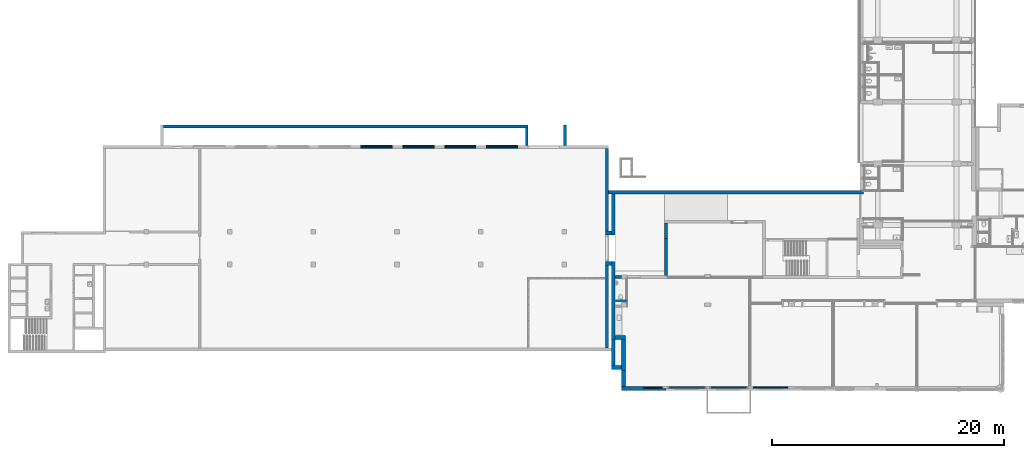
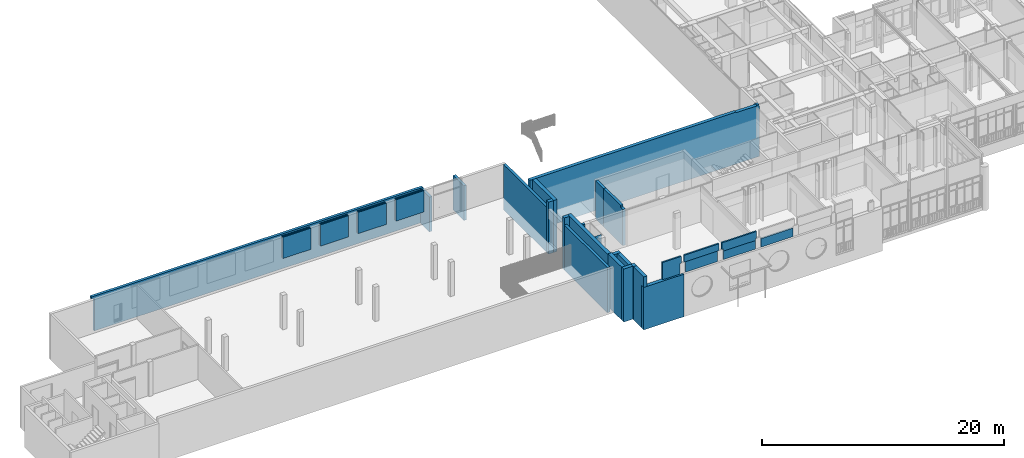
# One storey, part 81 of 135: 34 walls.
"""IFC2X3 building model written with IfcOpenShell, lengths in millimetres."""

from ifc_helpers import new_model, entity, si_unit, converted_unit, derived_unit, money_unit, direction, frame, origin_with_axes, place, context, subcontext, project, spatial, faceted_brep, material, type_object, element, save


model = new_model("IFC2X3")

# Units and contexts
model_context = context("Model", 3, precision=0.01, world=origin_with_axes(), true_north=direction((0.0, 1.0)))
body_context = subcontext(model_context, "Body", "Model", "MODEL_VIEW")
ifc_project = project(units=[si_unit("LENGTHUNIT", "METRE", prefix="MILLI"), si_unit("AREAUNIT", "SQUARE_METRE"), si_unit("VOLUMEUNIT", "CUBIC_METRE"), converted_unit("PLANEANGLEUNIT", "DEGREE", entity("IfcPlaneAngleMeasure", 0.0174532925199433), si_unit("PLANEANGLEUNIT", "RADIAN"), dimensions=[0, 0, 0, 0, 0, 0, 0]), money_unit("EUR"), converted_unit("TIMEUNIT", "Year", entity("IfcTimeMeasure", 31557600.0), si_unit("TIMEUNIT", "SECOND"), dimensions=[0, 0, 1, 0, 0, 0, 0]), si_unit("MASSUNIT", "GRAM", prefix="KILO"), si_unit("THERMODYNAMICTEMPERATUREUNIT", "DEGREE_CELSIUS"), si_unit("LUMINOUSINTENSITYUNIT", "LUMEN"), si_unit("ENERGYUNIT", "JOULE", prefix="MEGA"), derived_unit("THERMALCONDUCTANCEUNIT", [(si_unit("POWERUNIT", "WATT"), 1), (si_unit("LENGTHUNIT", "METRE"), -1), (si_unit("THERMODYNAMICTEMPERATUREUNIT", "KELVIN"), -1)]), derived_unit("SPECIFICHEATCAPACITYUNIT", [(si_unit("ENERGYUNIT", "JOULE"), 1), (si_unit("MASSUNIT", "GRAM", prefix="KILO"), -1), (si_unit("THERMODYNAMICTEMPERATUREUNIT", "KELVIN"), -1)]), derived_unit("MASSDENSITYUNIT", [(si_unit("MASSUNIT", "GRAM", prefix="KILO"), 1), (si_unit("VOLUMEUNIT", "CUBIC_METRE"), -1)])], contexts=[model_context])

# Site, building, storey
site_placement = place(None, origin_with_axes())
site = spatial("IfcSite", under=ifc_project, at=site_placement, Name="Site", CompositionType="ELEMENT")
building_placement = place(site_placement, origin_with_axes())
building = spatial("IfcBuilding", under=site, at=building_placement, Name="Naam gebouw", CompositionType="ELEMENT")
storey_placement = place(building_placement, origin_with_axes())
storey = spatial("IfcBuildingStorey", under=building, at=storey_placement, Name="Begane grond N", CompositionType="ELEMENT", Elevation=0.0)

# Walls
ifc_material_1 = material(Name="ALG - CONSTRUCTIEF")
wall_type_1 = type_object("IfcWallType", Name="ALG - CONSTRUCTIEF 330", PredefinedType="NOTDEFINED")
wall_1_placement = place(storey_placement, frame((100.0000479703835, 3445.668707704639, -1200.0), z_axis=(0.0, 0.0, 1.0), x_axis=(1.0, 0.0, 0.0)))
element("IfcWall", 1, at=wall_1_placement, inside=storey, type_object=wall_type_1, material=ifc_material_1, Name="_Wand-x", context=body_context, shape_type="Brep", body=[
    faceted_brep([(-329.9999999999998, 0.0, 4290.0), (3229.999952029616, 0.0, 4290.0), (3229.999952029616, 0.0, 1200.0), (3499.999952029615, 0.0, 1200.0), (3499.999952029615, 0.0, 0.0), (-329.9999999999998, 0.0, 0.0), (3499.999952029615, -150.0000000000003, 4290.0), (3229.999952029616, -150.0000000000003, 4290.0), (-329.9999999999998, -329.9999999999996, 4290.0), (3499.999952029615, -329.9999999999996, 4290.0), (3229.999952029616, -150.0000000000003, 1200.0), (3499.999952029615, -150.0000000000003, 1200.0), (3499.999952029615, -329.9999999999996, 0.0), (-329.9999999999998, -330.0000000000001, 0.0)], [[[0, 1, 2, 3, 4, 5]], [[6, 7, 1, 0, 8, 9]], [[10, 2, 1, 7]], [[10, 11, 3, 2]], [[3, 11, 6, 9, 12, 4]], [[13, 5, 4, 12]], [[8, 0, 5, 13]], [[10, 7, 6, 11]], [[8, 13, 12, 9]]]),
])
wall_2_placement = place(storey_placement, frame((-770.0388143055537, 20015.80194477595, -1200.0), z_axis=(0.0, 0.0, 1.0), x_axis=(0.0, -1.0, 0.0)))
element("IfcWall", 2, at=wall_2_placement, inside=storey, type_object=wall_type_1, material=ifc_material_1, Name="_Wand-x", context=body_context, shape_type="Brep", body=[
    faceted_brep([(0.001733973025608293, -329.9999999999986, 5250.000000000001), (-0.0002576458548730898, -0.0372909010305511, 5250.000000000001), (-0.0002576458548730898, -0.0372909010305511, 5050.000000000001), (-0.0002578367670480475, -1.321942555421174e-09, 5050.000000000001), (0.0, 0.0, 0.0), (0.001733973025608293, -329.9999999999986, 0.0), (3500.226920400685, -329.9999999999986, 5250.000000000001), (3500.226920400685, -0.0372909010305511, 5250.000000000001), (3500.226920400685, -0.0372909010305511, 5050.000000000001), (3500.226920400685, 0.0, 5050.000000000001), (3500.226920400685, 0.0, 0.0), (3500.226920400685, -330.0000000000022, 0.0)], [[[0, 1, 2, 3, 4, 5]], [[6, 7, 1, 0]], [[8, 2, 1, 7]], [[8, 9, 3, 2]], [[4, 3, 9, 10]], [[4, 10, 11, 5]], [[5, 11, 6, 0]], [[9, 8, 7, 6, 11, 10]]]),
])
wall_3_placement = place(storey_placement, frame((100.0000479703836, 5261.796119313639, -1200.0), z_axis=(0.0, 0.0, 1.0), x_axis=(-1.0, 0.0, 0.0)))
element("IfcWall", 3, at=wall_3_placement, inside=storey, type_object=wall_type_1, material=ifc_material_1, Name="_Wand-x", context=body_context, shape_type="Brep", body=[
    faceted_brep([(330.0000000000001, 0.0, 5350.000000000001), (1200.038862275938, 0.0, 5350.000000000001), (1200.038862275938, 330.0000000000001, 5350.000000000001), (330.0, 330.0000000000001, 5350.000000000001), (330.0000000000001, 0.0, 0.0), (1200.038862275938, 0.0, 0.0), (1200.038862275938, 330.0000000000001, 0.0), (330.0, 330.0000000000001, 0.0)], [[[0, 1, 2, 3]], [[4, 5, 1, 0]], [[6, 2, 1, 5]], [[3, 2, 6, 7]], [[7, 4, 0, 3]], [[7, 6, 5, 4]]]),
])
wall_4_placement = place(storey_placement, frame((100.0000479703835, 3445.668707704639, -1200.0), z_axis=(0.0, 0.0, 1.0), x_axis=(0.0, 1.0, 0.0)))
element("IfcWall", 4, at=wall_4_placement, inside=storey, type_object=wall_type_1, material=ifc_material_1, Name="_Wand-x", context=body_context, shape_type="Brep", body=[
    faceted_brep([(0.0, 0.0, 0.0), (1386.127411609, 0.0, 0.0), (1386.127411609, 0.0, 5350.000000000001), (-330.0000000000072, 0.0, 5350.000000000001), (-329.9999999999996, 0.0, 4290.0), (0.0, 0.0, 4290.0), (0.0, 330.0000000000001, 0.0), (1386.127411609, 329.9999999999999, 0.0), (1386.127411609, 330.0000000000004, 5350.000000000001), (-330.0000000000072, 330.0000000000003, 5350.000000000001), (-329.9999999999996, 330.0000000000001, 4290.0), (0.0, 330.0000000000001, 4290.0)], [[[0, 1, 2, 3, 4, 5]], [[6, 7, 1, 0]], [[7, 8, 2, 1]], [[3, 2, 8, 9]], [[9, 10, 4, 3]], [[11, 5, 4, 10]], [[6, 0, 5, 11]], [[9, 8, 7, 6, 11, 10]]]),
])
wall_5_placement = place(storey_placement, frame((-770.0388143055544, 7505.779842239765, -1200.0), z_axis=(0.0, 0.0, 1.0), x_axis=(0.0, -1.0, 0.0)))
element("IfcWall", 5, at=wall_5_placement, inside=storey, type_object=wall_type_1, material=ifc_material_1, Name="_Wand-x", context=body_context, shape_type="Brep", body=[
    faceted_brep([(0.0, -330.0000000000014, 5350.000000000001), (0.0, -0.03729090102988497, 5350.000000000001), (0.0, -0.03729090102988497, 5050.000000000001), (0.0, 0.0, 5050.000000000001), (0.0, 0.0, 0.0), (0.0, -330.0000000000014, 0.0), (2243.983722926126, -330.0000000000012, 5350.000000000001), (2243.983722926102, -0.03729090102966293, 5350.000000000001), (2243.983722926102, -0.03729090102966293, 5050.000000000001), (2243.983722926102, 0.0, 5050.000000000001), (2243.983722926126, 0.0, 0.0), (2243.983722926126, -330.0000000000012, 0.0)], [[[0, 1, 2, 3, 4, 5]], [[6, 7, 1, 0]], [[8, 2, 1, 7]], [[8, 9, 3, 2]], [[4, 3, 9, 10]], [[4, 10, 11, 5]], [[5, 11, 6, 0]], [[9, 8, 7, 6, 11, 10]]]),
])
wall_6_placement = place(storey_placement, frame((-770.0388143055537, 16515.57502437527, -1200.0), z_axis=(0.0, 0.0, 1.0), x_axis=(-1.0, 0.0, 0.0)))
element("IfcWall", 6, at=wall_6_placement, inside=storey, type_object=wall_type_1, material=ifc_material_1, Name="_Wand-x", context=body_context, shape_type="Brep", body=[
    faceted_brep([(829.9611856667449, -0.01670625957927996, 5250.000000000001), (579.9611856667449, -0.01670625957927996, 5250.000000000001), (579.9611856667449, 0.0, 5250.000000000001), (329.9999999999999, 0.0, 5250.000000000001), (329.9999999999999, -329.9999999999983, 5250.000000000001), (829.9611856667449, -329.9999999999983, 5250.000000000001), (579.9611856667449, -0.01670625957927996, 4560.000000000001), (829.9611856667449, -0.01670625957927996, 4560.000000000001), (579.9611856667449, 0.0, 4560.000000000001), (829.9611856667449, 0.0, 4560.000000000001), (829.9611845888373, 0.0, 0.0), (329.9999999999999, 0.0, 0.0), (329.9999999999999, -329.9999999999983, 0.0), (829.9611845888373, -330.0000000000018, 0.0)], [[[0, 1, 2, 3, 4, 5]], [[6, 1, 0, 7]], [[8, 2, 1, 6]], [[2, 8, 9, 10, 11, 3]], [[3, 11, 12, 4]], [[12, 13, 5, 4]], [[9, 7, 0, 5, 13, 10]], [[7, 9, 8, 6]], [[12, 11, 10, 13]]]),
])
wall_7_placement = place(storey_placement, frame((-770.0388143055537, 14215.57502436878, -1200.0), z_axis=(0.0, 0.0, 1.0), x_axis=(-1.0, 0.0, 0.0)))
element("IfcWall", 7, at=wall_7_placement, inside=storey, type_object=wall_type_1, material=ifc_material_1, Name="_Wand-x", context=body_context, shape_type="Brep", body=[
    faceted_brep([(330.0000000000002, 0.0, 0.0), (829.9611845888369, 0.0, 0.0), (829.9611856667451, 0.0, 5250.000000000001), (330.0000000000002, 0.0, 5250.000000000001), (330.0000000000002, 330.0000000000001, 0.0), (829.9611845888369, 330.0000000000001, 0.0), (829.9611856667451, 330.0000000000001, 5250.000000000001), (330.0000000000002, 330.0000000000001, 5250.000000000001)], [[[0, 1, 2, 3]], [[0, 4, 5, 1]], [[1, 5, 6, 2]], [[7, 3, 2, 6]], [[7, 4, 0, 3]], [[4, 7, 6, 5]]]),
])
wall_8_placement = place(storey_placement, frame((100.0000479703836, 5261.796119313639, -1200.0), z_axis=(0.0, 0.0, 1.0), x_axis=(0.0, 1.0, 0.0)))
element("IfcWall", 8, at=wall_8_placement, inside=storey, type_object=wall_type_1, material=ifc_material_1, Name="_Wand-x", context=body_context, shape_type="Brep", body=[
    faceted_brep([(2243.983722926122, 329.9999999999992, 1200.0), (2243.983722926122, 329.9999999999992, 5050.000000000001), (2243.983722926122, 0.0, 5050.000000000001), (2243.983722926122, 0.0, 1200.0), (0.0, 329.999999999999, 5350.000000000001), (0.0, 329.999999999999, 5050.000000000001), (0.0, 329.999999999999, 1200.0), (0.0, 329.999999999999, 1000.0), (2243.983722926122, 329.9999999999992, 999.9999999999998), (2243.983722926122, 329.9999999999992, 0.0), (-430.0000000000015, 329.999999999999, 0.0), (-430.0000000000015, 329.999999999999, 5350.000000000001), (0.0, 0.0, 5050.000000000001), (0.0, 0.0, 5350.000000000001), (-430.0000000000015, 0.0, 5350.000000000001), (-430.0000000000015, 0.0, 0.0), (2243.983722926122, 0.0, 0.0), (2243.983722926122, 0.0, 1000.0), (0.0, 0.0, 1000.0), (0.0, 0.0, 1200.0)], [[[0, 1, 2, 3]], [[4, 5, 1, 0, 6, 7, 8, 9, 10, 11]], [[5, 12, 2, 1]], [[2, 12, 13, 14, 15, 16, 17, 18, 19, 3]], [[6, 0, 3, 19]], [[5, 4, 13, 12]], [[6, 19, 18, 7]], [[7, 18, 17, 8]], [[9, 8, 17, 16]], [[15, 10, 9, 16]], [[14, 11, 10, 15]], [[14, 13, 4, 11]]]),
])
wall_9_placement = place(storey_placement, frame((100.0000479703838, 7835.779842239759, -1200.0), z_axis=(0.0, 0.0, 1.0), x_axis=(-1.0, 0.0, 0.0)))
element("IfcWall", 9, at=wall_9_placement, inside=storey, type_object=wall_type_1, material=ifc_material_1, Name="_Wand-x", context=body_context, shape_type="Brep", body=[
    faceted_brep([(870.0388622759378, 0.0, 0.0), (870.0388622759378, 0.0, 1000.0), (0.0, 0.0, 999.9999999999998), (0.0, 0.0, 0.0), (870.0388622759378, 329.9999999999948, 0.0), (870.0388622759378, 329.9999999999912, 1000.0), (0.0, 329.9999999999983, 1000.0), (0.0, 329.9999999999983, 0.0)], [[[0, 1, 2, 3]], [[4, 5, 1, 0]], [[5, 6, 2, 1]], [[3, 2, 6, 7]], [[3, 7, 4, 0]], [[7, 6, 5, 4]]]),
    faceted_brep([(870.0388622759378, 0.0, 1200.0), (870.0388622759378, 0.0, 5050.000000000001), (0.0, 0.0, 5050.000000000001), (0.0, 0.0, 1200.0), (870.0388622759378, 329.9999999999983, 1200.0), (870.0388622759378, 329.9999999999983, 5050.000000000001), (0.0, 329.9999999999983, 5050.000000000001), (0.0, 329.9999999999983, 1200.0)], [[[0, 1, 2, 3]], [[4, 5, 1, 0]], [[5, 6, 2, 1]], [[3, 2, 6, 7]], [[4, 0, 3, 7]], [[7, 6, 5, 4]]]),
])
wall_10_placement = place(storey_placement, frame((-770.038814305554, 14215.57502437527, -1200.0), z_axis=(0.0, 0.0, 1.0), x_axis=(0.0, -1.0, 0.0)))
element("IfcWall", 10, at=wall_10_placement, inside=storey, type_object=wall_type_1, material=ifc_material_1, Name="_Wand-x", context=body_context, shape_type="Brep", body=[
    faceted_brep([(6.490807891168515e-09, -329.9999999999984, 5250.000000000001), (6.490807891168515e-09, -0.03729090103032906, 5250.000000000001), (6.490807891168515e-09, -0.03729090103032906, 5050.000000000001), (6.490807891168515e-09, 0.0, 5050.000000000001), (6.490807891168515e-09, 0.0, 0.0), (6.490807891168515e-09, -329.9999999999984, 0.0), (6709.795182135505, -330.0000000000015, 5250.000000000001), (6709.795182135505, -0.03729090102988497, 5250.000000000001), (6709.795182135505, -0.03729090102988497, 5050.000000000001), (6709.795182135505, 0.0, 5050.000000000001), (6709.795182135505, 0.0, 0.0), (6709.795182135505, -330.0000000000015, 0.0)], [[[0, 1, 2, 3, 4, 5]], [[6, 7, 1, 0]], [[8, 2, 1, 7]], [[8, 9, 3, 2]], [[4, 3, 9, 10]], [[5, 4, 10, 11]], [[0, 5, 11, 6]], [[9, 8, 7, 6, 11, 10]]]),
])
wall_type_2 = type_object("IfcWallType", Name="ALG - CONSTRUCTIEF 250", PredefinedType="NOTDEFINED")
wall_11_placement = place(storey_placement, frame((3731.100532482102, 17515.84806644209, 0.0), z_axis=(0.0, 0.0, 1.0), x_axis=(-9.281575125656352e-10, -1.0, 0.0)))
element("IfcWall", 11, at=wall_11_placement, inside=storey, type_object=wall_type_2, material=ifc_material_1, Name="_Wand-x", context=body_context, shape_type="Brep", body=[
    faceted_brep([(2.320419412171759e-07, -250.0, 3850.0), (1319.927806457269, -249.9999987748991, 3850.0), (1319.927806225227, 1.22510090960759e-06, 3850.0), (0.0, 0.0, 3850.0), (2.320419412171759e-07, -250.0, 0.0), (1319.927806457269, -249.9999987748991, 0.0), (1319.927806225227, 1.22510090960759e-06, 0.0), (0.0, 0.0, 0.0)], [[[0, 1, 2, 3]], [[4, 5, 1, 0]], [[2, 1, 5, 6]], [[3, 2, 6, 7]], [[4, 0, 3, 7]], [[7, 6, 5, 4]]]),
])
wall_12_placement = place(storey_placement, frame((-1599.99999889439, 23965.57502437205, -1200.0), z_axis=(0.0, 0.0, 1.0), x_axis=(0.0, -1.0, 0.0)))
element("IfcWall", 12, at=wall_12_placement, inside=storey, type_object=wall_type_2, material=ifc_material_1, Name="_Wand-x", context=body_context, shape_type="Brep", body=[
    faceted_brep([(7119.999999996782, 0.0, 4560.000000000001), (7119.999999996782, 249.9999999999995, 4560.000000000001), (0.0, 250.0000000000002, 4560.000000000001), (0.0, 0.0, 4560.000000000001), (7119.999999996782, 0.0, 0.0), (7119.999999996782, 249.9999999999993, 0.0), (0.0, 250.0, 0.0), (0.0, 0.0, 0.0)], [[[0, 1, 2, 3]], [[1, 0, 4, 5]], [[1, 5, 6, 2]], [[7, 3, 2, 6]], [[4, 0, 3, 7]], [[5, 4, 7, 6]]]),
])
wall_13_placement = place(storey_placement, frame((-39904.07362386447, 25966.32932273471, -1200.0), z_axis=(0.0, 0.0, 1.0), x_axis=(1.0, 0.0, 0.0)))
element("IfcWall", 13, at=wall_13_placement, inside=storey, type_object=wall_type_2, material=ifc_material_1, Name="_Wand-x", context=body_context, shape_type="Brep", body=[
    faceted_brep([(250.0392305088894, -250.0, 3300.0), (250.0392305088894, -250.0, 0.0), (31639.79397950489, -249.9999999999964, 0.0), (31639.79397950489, -249.9999999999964, 3510.0), (0.0, -250.0, 3510.0), (0.0, -250.0, 3300.0), (250.000003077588, 0.0, 0.0), (250.000003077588, 0.0, 3300.0), (31639.79397950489, 0.0, 0.0), (31639.79397950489, 0.0, 3510.0), (0.0, 0.0, 3510.0), (0.0, 0.0, 3300.0)], [[[0, 1, 2, 3, 4, 5]], [[6, 1, 0, 7]], [[2, 1, 6, 8]], [[2, 8, 9, 3]], [[3, 9, 10, 4]], [[11, 5, 4, 10]], [[5, 11, 7, 0]], [[6, 7, 11, 10, 9, 8]]]),
])
wall_14_placement = place(storey_placement, frame((-4984.073623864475, 25966.32932273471, -1200.0), z_axis=(0.0, 0.0, 1.0), x_axis=(-0.0001029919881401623, -0.9999999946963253, 0.0)))
element("IfcWall", 14, at=wall_14_placement, inside=storey, type_object=wall_type_2, material=ifc_material_1, Name="_Wand-x", context=body_context, shape_type="Brep", body=[
    faceted_brep([(1750.754307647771, 0.0, 0.0), (1750.780055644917, -250.0000000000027, 0.0), (0.0, -250.0, 0.0), (0.0, 0.0, 0.0), (1750.754307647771, 0.0, 3510.0), (1750.780055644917, -250.0000000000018, 3510.0), (0.0, -250.0, 3510.0), (0.0, 0.0, 3510.0)], [[[0, 1, 2, 3]], [[1, 0, 4, 5]], [[1, 5, 6, 2]], [[7, 3, 2, 6]], [[4, 0, 3, 7]], [[5, 4, 7, 6]]]),
])
wall_15_placement = place(storey_placement, frame((3731.100531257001, 16195.92025998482, 0.0), z_axis=(0.0, 0.0, 1.0), x_axis=(-9.281576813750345e-10, -1.0, 0.0)))
element("IfcWall", 15, at=wall_15_placement, inside=storey, type_object=wall_type_2, material=ifc_material_1, Name="_Wand-x", context=body_context, shape_type="Brep", body=[
    faceted_brep([(2.320383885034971e-07, -250.0, 3850.0), (2800.007835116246, -249.9999974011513, 3850.000000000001), (2800.007834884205, 2.598848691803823e-06, 3850.000000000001), (0.0, 0.0, 3850.0), (3175.007831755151, -249.999997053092, 3650.000000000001), (2800.007835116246, -249.9999974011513, 3650.000000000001), (2.320383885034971e-07, -250.0, 0.0), (3175.007831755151, -249.999997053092, 0.0), (2800.007834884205, 2.598848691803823e-06, 3650.000000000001), (3175.007831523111, 2.946908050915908e-06, 3650.000000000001), (3175.007831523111, 2.946908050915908e-06, 0.0), (0.0, 0.0, 0.0)], [[[0, 1, 2, 3]], [[4, 5, 1, 0, 6, 7]], [[5, 8, 2, 1]], [[2, 8, 9, 10, 11, 3]], [[11, 6, 0, 3]], [[4, 9, 8, 5]], [[11, 10, 7, 6]], [[10, 9, 4, 7]]]),
])
wall_16_placement = place(storey_placement, frame((-250.0193952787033, 12770.91245226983, -100.0), z_axis=(0.0, 0.0, 1.0), x_axis=(-1.0, 0.0, 0.0)))
element("IfcWall", 16, at=wall_16_placement, inside=storey, type_object=wall_type_2, material=ifc_material_1, Name="_Wand-x", context=body_context, shape_type="Brep", body=[
    faceted_brep([(520.0194190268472, -250.0, 100.0), (520.0194190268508, -250.0, 3750.0), (0.0, -250.0, 3750.0), (0.0, -250.0, 100.0), (520.0194190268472, 0.0, 100.0), (520.0194190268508, 0.0, 3750.0), (0.0, 0.0, 3750.0), (0.0, 0.0, 100.0)], [[[0, 1, 2, 3]], [[4, 5, 1, 0]], [[5, 6, 2, 1]], [[3, 2, 6, 7]], [[4, 0, 3, 7]], [[7, 6, 5, 4]]]),
])
wall_17_placement = place(storey_placement, frame((-1599.999998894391, 14215.57502436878, -1200.0), z_axis=(0.0, 0.0, 1.0), x_axis=(0.0, -1.0, 0.0)))
element("IfcWall", 17, at=wall_17_placement, inside=storey, type_object=wall_type_2, material=ifc_material_1, Name="_Wand-x", context=body_context, shape_type="Brep", body=[
    faceted_brep([(7449.999999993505, 0.0, 4560.000000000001), (7449.999999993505, 249.9999999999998, 4560.000000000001), (330.0000000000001, 250.0000000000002, 4560.000000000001), (330.0000000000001, 0.0, 4560.000000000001), (7449.999999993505, 0.0, 0.0), (7449.999999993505, 249.9999999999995, 0.0), (330.0000000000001, 250.0, 0.0), (330.0000000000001, 0.0, 0.0)], [[[0, 1, 2, 3]], [[1, 0, 4, 5]], [[1, 5, 6, 2]], [[7, 3, 2, 6]], [[4, 0, 3, 7]], [[5, 4, 7, 6]]]),
])
ifc_material_2 = material(Name="Steen - Betonblok")
wall_type_3 = type_object("IfcWallType", Name="Steen - Betonblok 100", PredefinedType="NOTDEFINED")
wall_18_placement = place(storey_placement, frame((-12764.27964435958, 24215.57502437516, 1210.0), z_axis=(0.0, 0.0, 1.0), x_axis=(-1.0, 0.0, 0.0)))
element("IfcWall", 18, at=wall_18_placement, inside=storey, type_object=wall_type_3, material=ifc_material_2, Name="_Wand-x", context=body_context, shape_type="Brep", body=[
    faceted_brep([(0.0, 0.0, 2150.0), (2700.000000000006, 0.0, 2150.0), (2700.000000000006, 100.0000000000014, 2150.0), (0.0, 100.0000000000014, 2150.0), (0.0, 0.0, 0.0), (2700.000000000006, 0.0, 0.0), (2700.000000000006, 100.0000000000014, 0.0), (0.0, 100.0000000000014, 0.0)], [[[0, 1, 2, 3]], [[4, 5, 1, 0]], [[2, 1, 5, 6]], [[3, 2, 6, 7]], [[4, 0, 3, 7]], [[7, 6, 5, 4]]]),
])
for number, where, z_axis, x_axis, name in (
    (19, (-19964.27964435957, 23965.57502437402, 1210.0), (0.0, 0.0, 1.0), (-1.0, 0.0, 0.0), "_Wand-x"),
    (20, (-16364.27964435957, 23965.57502437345, 1210.0), (0.0, 0.0, 1.0), (-1.0, 0.0, 0.0), "_Wand-x"),
    (21, (-9164.279644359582, 23965.57502437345, 1210.0), (0.0, 0.0, 1.0), (-1.0, 0.0, 0.0), "_Wand-x"),
    (22, (-12764.27964435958, 23965.57502437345, 1210.0), (0.0, 0.0, 1.0), (-1.0, 0.0, 0.0), "_Wand-x"),
):
    element("IfcWall", number, at=place(storey_placement, frame(where, z_axis=z_axis, x_axis=x_axis)), inside=storey, type_object=wall_type_3, material=ifc_material_2, Name=name, context=body_context, shape_type="Brep", body=[
        faceted_brep([(0.0, 0.0, 0.0), (2700.000000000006, 0.0, 0.0), (2700.000000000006, -100.0000000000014, 0.0), (0.0, -100.0000000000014, 0.0), (0.0, 0.0, 2150.0), (2700.000000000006, 0.0, 2150.0), (2700.000000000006, -100.0000000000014, 2150.0), (0.0, -100.0000000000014, 2150.0)], [[[0, 1, 2, 3]], [[4, 5, 1, 0]], [[2, 1, 5, 6]], [[3, 2, 6, 7]], [[4, 0, 3, 7]], [[7, 6, 5, 4]]]),
    ])
for number, where, z_axis, x_axis, name in (
    (23, (-9164.279644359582, 24215.57502437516, 1210.0), (0.0, 0.0, 1.0), (-1.0, 0.0, 0.0), "_Wand-x"),
    (24, (-16364.27964435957, 24215.57502437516, 1210.0), (0.0, 0.0, 1.0), (-1.0, 0.0, 0.0), "_Wand-x"),
    (25, (-19964.27964435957, 24215.57502437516, 1210.0), (0.0, 0.0, 1.0), (-1.0, 0.0, 0.0), "_Wand-x"),
):
    element("IfcWall", number, at=place(storey_placement, frame(where, z_axis=z_axis, x_axis=x_axis)), inside=storey, type_object=wall_type_3, material=ifc_material_2, Name=name, context=body_context, shape_type="Brep", body=[
        faceted_brep([(0.0, 0.0, 2150.0), (2700.000000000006, 0.0, 2150.0), (2700.000000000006, 100.0000000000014, 2150.0), (0.0, 100.0000000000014, 2150.0), (0.0, 0.0, 0.0), (2700.000000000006, 0.0, 0.0), (2700.000000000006, 100.0000000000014, 0.0), (0.0, 100.0000000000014, 0.0)], [[[0, 1, 2, 3]], [[4, 5, 1, 0]], [[2, 1, 5, 6]], [[3, 2, 6, 7]], [[4, 0, 3, 7]], [[7, 6, 5, 4]]]),
    ])
wall_type_4 = type_object("IfcWallType", Name="ALG - CONSTRUCTIEF 146", PredefinedType="NOTDEFINED")
wall_19_placement = place(storey_placement, frame((3737.498759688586, 3445.658971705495, 3090.0), z_axis=(0.0, 0.0, 1.0), x_axis=(0.999999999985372, 5.408888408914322e-06, 0.0)))
element("IfcWall", 26, at=wall_19_placement, inside=storey, type_object=wall_type_4, material=ifc_material_1, Name="_Wand-x", context=body_context, shape_type="Brep", body=[
    faceted_brep([(3192.501240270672, -0.01726788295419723, 0.0), (132.5012403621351, 0.009019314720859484, 0.0), (132.5012403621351, 0.009019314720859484, 1060.0), (3192.501240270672, -0.01726788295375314, 1060.0), (3192.500450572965, -146.0172678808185, 0.0), (132.5004506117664, -146.0007166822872, 0.0), (132.5004506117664, -146.0007166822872, 1060.0), (3192.500450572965, -146.0172678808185, 1060.0)], [[[0, 1, 2, 3]], [[4, 5, 1, 0]], [[5, 6, 2, 1]], [[3, 2, 6, 7]], [[7, 4, 0, 3]], [[7, 6, 5, 4]]]),
])
wall_20_placement = place(storey_placement, frame((11070.0, 3445.668707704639, 3090.0), z_axis=(0.0, 0.0, 1.0), x_axis=(0.999999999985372, 5.408888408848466e-06, 0.0)))
element("IfcWall", 27, at=wall_20_placement, inside=storey, type_object=wall_type_4, material=ifc_material_1, Name="_Wand-x", context=body_context, shape_type="Brep", body=[
    faceted_brep([(-0.0007896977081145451, -145.9999999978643, 0.0), (0.0, 0.0, 0.0), (3059.999999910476, -0.0165511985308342, 0.0), (3059.999210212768, -146.0165511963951, 0.0), (-0.0007896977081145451, -145.9999999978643, 860.0000000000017), (0.0, 0.0, 860.0000000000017), (3059.999999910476, -0.01655119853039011, 860.0000000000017), (3059.999210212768, -146.0165511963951, 860.0000000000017)], [[[0, 1, 2, 3]], [[4, 5, 1, 0]], [[1, 5, 6, 2]], [[7, 3, 2, 6]], [[4, 0, 3, 7]], [[5, 4, 7, 6]]]),
])
wall_21_placement = place(storey_placement, frame((3737.498759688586, 3445.658971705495, 4150.0), z_axis=(0.0, 0.0, 1.0), x_axis=(0.999999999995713, 2.928163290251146e-06, 0.0)))
element("IfcWall", 28, at=wall_21_placement, inside=storey, type_object=wall_type_4, material=ifc_material_1, Name="_Wand-x", context=body_context, shape_type="Brep", body=[
    faceted_brep([(0.0, 0.0, 0.0), (3324.950890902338, -0.009735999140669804, 0.0), (3324.950463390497, -146.0097359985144, 0.0), (-0.0004275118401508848, -145.9999999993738, 0.0), (0.0, 0.0, 686.5000000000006), (3324.950890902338, -0.009735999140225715, 686.5000000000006), (3324.950463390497, -146.0097359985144, 686.5000000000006), (-0.0004275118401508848, -145.9999999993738, 686.5000000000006)], [[[0, 1, 2, 3]], [[4, 5, 1, 0]], [[2, 1, 5, 6]], [[3, 2, 6, 7]], [[4, 0, 3, 7]], [[7, 6, 5, 4]]]),
])
wall_22_placement = place(storey_placement, frame((7337.456590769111, 3445.668707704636, 3950.000000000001), z_axis=(0.0, 0.0, 1.0), x_axis=(1.0, 0.0, 0.0)))
element("IfcWall", 29, at=wall_22_placement, inside=storey, type_object=wall_type_4, material=ifc_material_1, Name="_Wand-x", context=body_context, shape_type="Brep", body=[
    faceted_brep([(132.5434092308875, 0.0, 0.0), (132.5434092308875, 0.0, 199.9999999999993), (0.0, 0.0, 199.9999999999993), (0.0, 0.0, 886.4999999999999), (3324.993059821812, 0.0, 886.4999999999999), (3324.993059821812, 0.0, 199.9999999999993), (3192.543409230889, 0.0, 199.9999999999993), (3192.543409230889, 0.0, 0.0), (132.5434092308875, -145.9999999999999, 199.9999999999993), (132.5434092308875, -145.9999999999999, 0.0), (0.0, -145.9999999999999, 199.9999999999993), (0.0, -145.9999999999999, 886.4999999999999), (3324.993059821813, -145.9999999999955, 886.4999999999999), (3324.993059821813, -145.9999999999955, 199.9999999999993), (3192.543409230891, -145.9999999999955, 199.9999999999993), (3192.543409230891, -145.9999999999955, 0.0)], [[[0, 1, 2, 3, 4, 5, 6, 7]], [[8, 1, 0, 9]], [[10, 2, 1, 8]], [[3, 2, 10, 11]], [[3, 11, 12, 4]], [[12, 13, 5, 4]], [[14, 6, 5, 13]], [[15, 7, 6, 14]], [[15, 9, 0, 7]], [[10, 8, 9, 15, 14, 13, 12, 11]]]),
])
wall_23_placement = place(storey_placement, frame((1662.498759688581, 3445.658971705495, 3090.0), z_axis=(0.0, 0.0, 1.0), x_axis=(0.999999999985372, 5.408888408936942e-06, 0.0)))
element("IfcWall", 30, at=wall_23_placement, inside=storey, type_object=wall_type_4, material=ifc_material_1, Name="_Wand-x", context=body_context, shape_type="Brep", body=[
    faceted_brep([(1799.999210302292, -146.0097359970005, 1746.500000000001), (1799.999210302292, -146.0097359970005, 1060.0), (1800.000000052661, 0.0, 1060.0), (1800.0, -0.009735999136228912, 1746.500000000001), (1667.500450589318, -146.0090193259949, 0.0), (1667.500450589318, -146.0090193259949, 1060.0), (-0.0007896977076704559, -145.9999999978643, 1746.500000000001), (-0.0007896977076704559, -145.9999999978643, 0.0), (1667.501240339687, 0.0007166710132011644, 1060.0), (1667.501240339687, 0.0007166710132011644, 0.0), (0.0, 0.0, 0.0), (0.0, 0.0, 1746.500000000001)], [[[0, 1, 2, 3]], [[4, 5, 1, 0, 6, 7]], [[5, 8, 2, 1]], [[2, 8, 9, 10, 11, 3]], [[11, 6, 0, 3]], [[4, 9, 8, 5]], [[6, 11, 10, 7]], [[10, 9, 4, 7]]]),
])
wall_24_placement = place(storey_placement, frame((7469.999999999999, 3445.668707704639, 3090.0), z_axis=(0.0, 0.0, 1.0), x_axis=(0.999999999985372, 5.408888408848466e-06, 0.0)))
element("IfcWall", 31, at=wall_24_placement, inside=storey, type_object=wall_type_4, material=ifc_material_1, Name="_Wand-x", context=body_context, shape_type="Brep", body=[
    faceted_brep([(-0.0007896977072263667, -145.9999999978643, 0.0), (0.0, 0.0, 0.0), (3059.999999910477, -0.0165511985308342, 0.0), (3059.999210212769, -146.0165511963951, 0.0), (-0.0007896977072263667, -145.9999999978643, 860.0000000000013), (0.0, 0.0, 860.0000000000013), (3059.999999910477, -0.01655119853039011, 860.0000000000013), (3059.999210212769, -146.0165511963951, 860.0000000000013)], [[[0, 1, 2, 3]], [[4, 5, 1, 0]], [[1, 5, 6, 2]], [[7, 3, 2, 6]], [[4, 0, 3, 7]], [[5, 4, 7, 6]]]),
])
ifc_material_3 = material(Name="Gipsplaat")
wall_type_5 = type_object("IfcWallType", Name="Metalstud 150 enkel 150", PredefinedType="NOTDEFINED")
wall_25_placement = place(storey_placement, frame((270.0000050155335, 10823.41242510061, 0.0), z_axis=(0.0, 0.0, 1.0), x_axis=(-1.0, 0.0, 0.0)))
element("IfcWall", 32, at=wall_25_placement, inside=storey, type_object=wall_type_5, material=ifc_material_3, Name="_Wand-x", context=body_context, shape_type="Brep", body=[
    faceted_brep([(1040.038819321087, 0.0, 0.0), (1040.038819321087, 0.0, 3650.000000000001), (99.99999999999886, 0.0, 3650.000000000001), (99.99999999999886, 0.0, 0.0), (1040.038819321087, 12.49999999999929, 0.0), (1040.038819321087, 12.49999999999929, 3650.000000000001), (99.99999999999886, 12.49999999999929, 3650.000000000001), (99.99999999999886, 12.49999999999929, 0.0)], [[[0, 1, 2, 3]], [[4, 5, 1, 0]], [[5, 6, 2, 1]], [[3, 2, 6, 7]], [[4, 0, 3, 7]], [[7, 6, 5, 4]]]),
])
wall_type_6 = type_object("IfcWallType", Name="Steen - Betonblok 250", PredefinedType="NOTDEFINED")
wall_26_placement = place(storey_placement, frame((-8264.279644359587, 25966.32932273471, -1200.0), z_axis=(0.0, 0.0, 1.0), x_axis=(0.0, -1.0, 0.0)))
element("IfcWall", 33, at=wall_26_placement, inside=storey, type_object=wall_type_6, material=ifc_material_2, Name="_Wand-x", context=body_context, shape_type="Brep", body=[
    faceted_brep([(1750.754298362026, 0.0, 0.0), (1750.754298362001, -250.0, 0.0), (249.9999999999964, -250.0, 0.0), (249.9999999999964, 0.0, 0.0), (1750.754298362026, 0.0, 3510.0), (1750.754298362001, -250.0, 3510.0), (249.9999999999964, -250.0, 3510.0), (249.9999999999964, 0.0, 3510.0)], [[[0, 1, 2, 3]], [[1, 0, 4, 5]], [[1, 5, 6, 2]], [[7, 3, 2, 6]], [[4, 0, 3, 7]], [[5, 4, 7, 6]]]),
])
wall_type_7 = type_object("IfcWallType", Name="ALG - CONSTRUCTIEF 310", PredefinedType="NOTDEFINED")
wall_27_placement = place(storey_placement, frame((20590.98901206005, 20015.91418552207, -1200.0), z_axis=(0.0, 0.0, 1.0), x_axis=(-0.9999999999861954, -5.25446373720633e-06, 0.0)))
element("IfcWall", 34, at=wall_27_placement, inside=storey, type_object=wall_type_7, material=ifc_material_1, Name="_Wand-x", context=body_context, shape_type="Brep", body=[
    faceted_brep([(54.987383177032, -309.9999999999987, 5250.000000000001), (379.9873831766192, -309.9999999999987, 5250.000000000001), (379.9874358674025, -299.9722097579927, 5250.000000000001), (257.4872737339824, -299.9715659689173, 5250.000000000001), (257.4888499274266, 0.0, 5250.000000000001), (54.98901206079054, 0.0, 5250.000000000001), (3083.987383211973, -309.9999999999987, 5180.000000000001), (379.9873831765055, -309.9999999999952, 5180.000000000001), (54.98738317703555, -309.9999999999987, 5050.000000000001), (0.0, -309.9999999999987, 5050.000000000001), (0.0, -309.9999999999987, 1200.0), (54.98738317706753, -309.9999999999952, 1200.0), (54.98738317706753, -309.9999999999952, 1000.0), (0.0, -309.9999999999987, 1000.0), (0.0, -309.9999999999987, 0.0), (21940.98738237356, -310.0000000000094, 0.0), (21940.98738345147, -310.0000000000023, 5250.000000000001), (3248.987383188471, -309.9999999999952, 5250.000000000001), (3248.987383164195, -309.9999999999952, 4980.0), (3148.987383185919, -309.9999999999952, 4980.0), (3148.987383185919, -309.9999999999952, 5250.000000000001), (3083.987383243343, -309.9999999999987, 5250.000000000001), (379.9874358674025, -299.9722097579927, 5180.000000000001), (257.4872737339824, -299.9715659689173, 5180.000000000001), (257.4888499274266, 0.0, 5180.000000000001), (2272.271620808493, 0.0, 5180.000000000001), (2272.271620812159, 0.0, 5250.000000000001), (21940.98901233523, 0.0, 5250.000000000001), (21940.98901125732, 0.0, 0.0), (0.0, 0.0, 0.0), (0.0, 0.0, 999.9999999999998), (54.98901206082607, 0.0, 1000.0), (54.98901206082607, 0.0, 1200.0), (0.0, 0.0, 1200.0), (0.0, 0.0, 5050.000000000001), (54.98901206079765, 0.0, 5050.000000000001), (335.0335159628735, 0.0, 1200.0), (335.0335159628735, 0.0, 1000.0), (21361.02782666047, 0.0, 1000.0), (21361.02782666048, 0.0, 1400.0), (17109.88847980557, 0.0, 1400.0), (17109.88847980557, 0.0, 1200.0), (2272.270070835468, -294.982152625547, 5180.000000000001), (3083.987462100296, -294.9864177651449, 5180.000000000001), (2272.270070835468, -294.982152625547, 5250.000000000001), (3083.987462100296, -294.9864177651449, 5250.000000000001), (3148.987462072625, -294.9867593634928, 5250.000000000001), (3248.98746204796, -294.9872847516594, 5250.000000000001), (3248.98746204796, -294.9872847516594, 4980.0), (3148.987462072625, -294.9867593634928, 4980.0), (21361.02782607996, -0.1104803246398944, 1000.0), (21361.02782607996, -0.1104803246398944, 1200.0), (21361.02782641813, -0.04612166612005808, 1200.0), (21361.02782641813, -0.04612166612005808, 1400.0), (17109.8884796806, -0.02378420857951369, 1400.0), (17109.8884796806, -0.02378420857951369, 1200.0)], [[[0, 1, 2, 3, 4, 5]], [[6, 7, 1, 0, 8, 9, 10, 11, 12, 13, 14, 15, 16, 17, 18, 19, 20, 21]], [[22, 2, 1, 7]], [[23, 3, 2, 22]], [[24, 4, 3, 23]], [[24, 25, 26, 27, 28, 29, 30, 31, 32, 33, 34, 35, 5, 4], [36, 37, 38, 39, 40, 41]], [[0, 5, 35, 8]], [[42, 25, 24, 23, 22, 7, 6, 43]], [[9, 8, 35, 34]], [[34, 33, 10, 9]], [[11, 10, 33, 32]], [[31, 12, 11, 32]], [[12, 31, 30, 13]], [[14, 13, 30, 29]], [[28, 15, 14, 29]], [[27, 16, 15, 28]], [[44, 45, 21, 20, 46, 47, 17, 16, 27, 26]], [[47, 48, 18, 17]], [[48, 49, 19, 18]], [[19, 49, 46, 20]], [[43, 6, 21, 45]], [[42, 44, 26, 25]], [[50, 37, 36, 51]], [[37, 50, 38]], [[39, 38, 50, 51, 52, 53]], [[40, 39, 53, 54]], [[55, 41, 40, 54]], [[52, 51, 36, 41, 55]], [[43, 45, 44, 42]], [[49, 48, 47, 46]], [[52, 55, 54, 53]]]),
])

save(model, "model.ifc")
